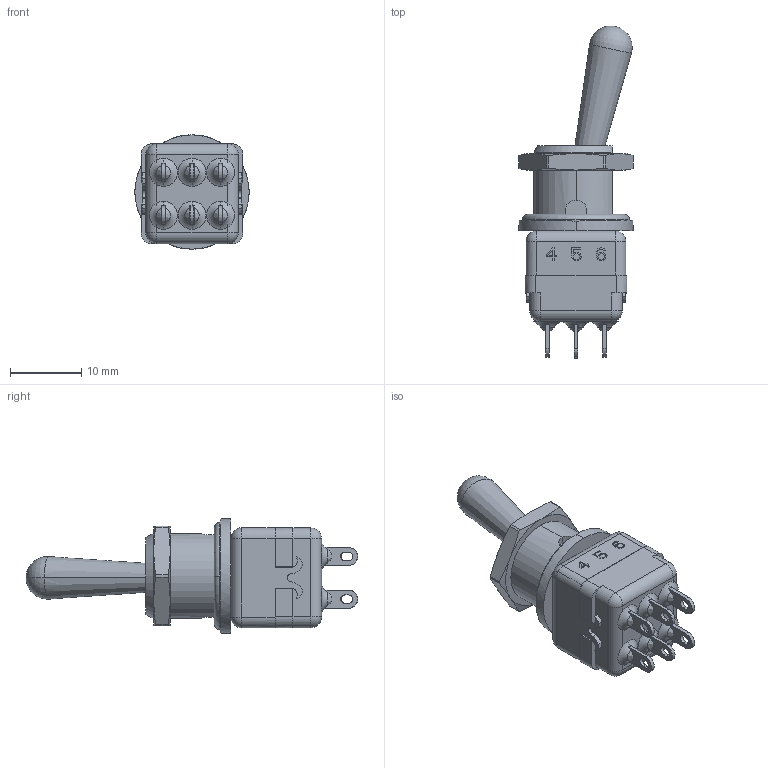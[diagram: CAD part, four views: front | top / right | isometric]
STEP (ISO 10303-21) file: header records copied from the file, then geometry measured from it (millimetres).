
FILE_DESCRIPTION((''),'2;1');
FILE_NAME('12146X408','2012-03-14T',('francis'),(''),'PRO/ENGINEER BY PARAMETRIC TECHNOLOGY CORPORATION, 2011250','PRO/ENGINEER BY PARAMETRIC TECHNOLOGY CORPORATION, 2011250','');
FILE_SCHEMA(('CONFIG_CONTROL_DESIGN'));
Length unit declared in the file: millimetre
Products named in the file (1): 12146X408
Bounding box: 16.01 x 46.49 x 16 mm (x, y, z)
Volume: 2863.9 mm3; surface area: 5061.9 mm2
Topology: 4 solids, 4 shells, 831 faces, 2407 edges, 1565 vertices
Faces by surface type: plane 582, cylinder 154, cone 35, bspline 24, torus 21, sphere 15
Entity records: 29209 total; most frequent: CARTESIAN_POINT 7356, ORIENTED_EDGE 4802, DIRECTION 4238, EDGE_CURVE 2401, VECTOR 1794, LINE 1794, VERTEX_POINT 1565, AXIS2_PLACEMENT_3D 1222
